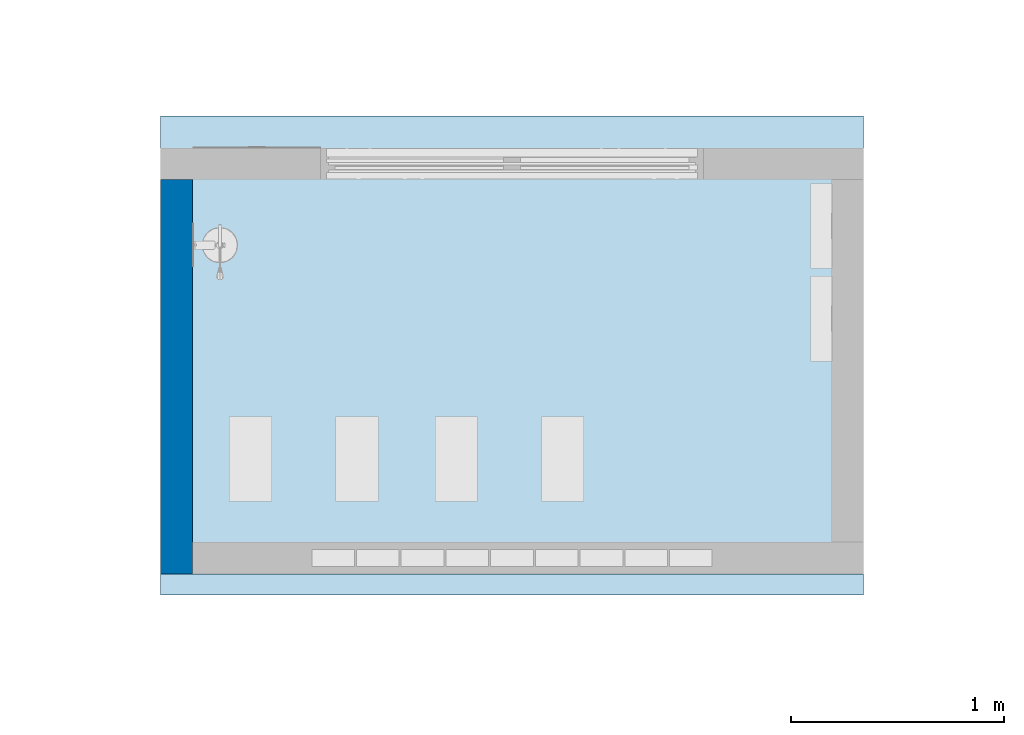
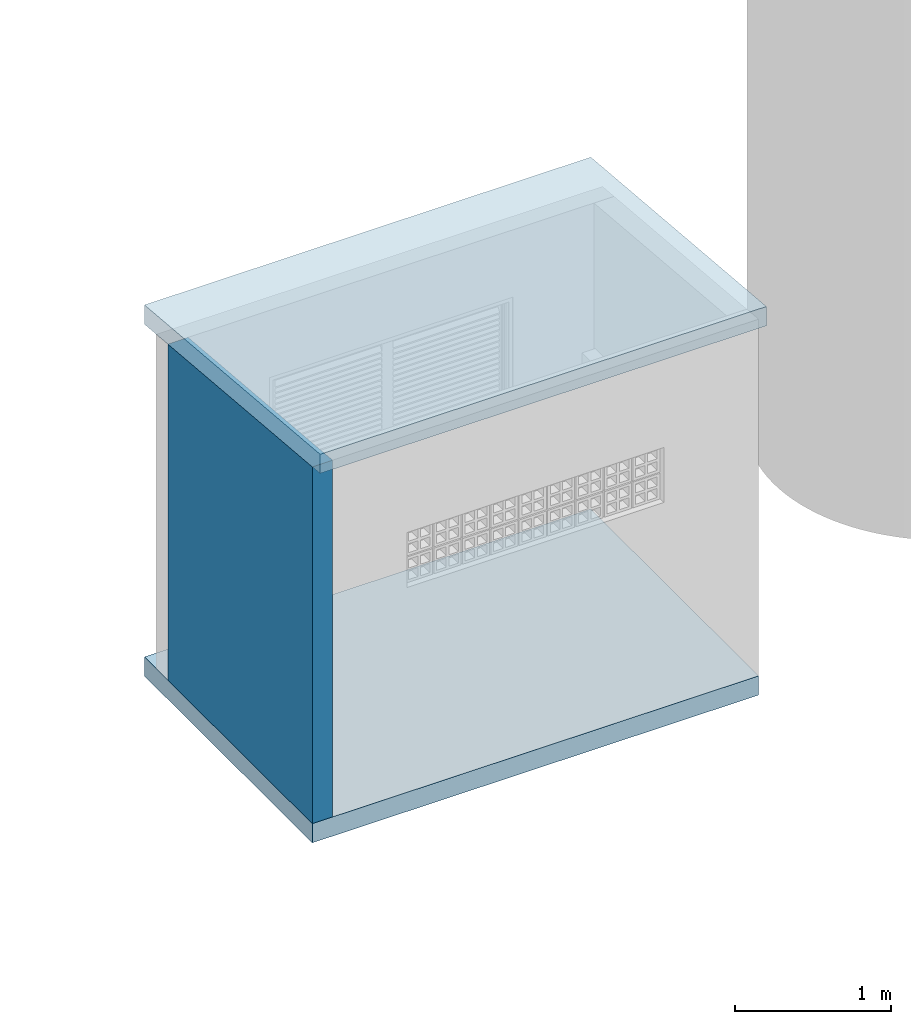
# One storey, part 1 of 119: 2 slabs, 1 wall, 1 element without a shape of its own.
"""IFC2X3 building model written with IfcOpenShell, lengths in metres."""

from ifc_helpers import new_model, entity, si_unit, converted_unit, derived_unit, direction, frame, frame_2d, origin, origin_2d_with_axis, place, context, subcontext, project, spatial, polyline, rectangle, extrude, clip, bounded_halfspace, material, layer, layer_set, layer_usage, type_object, element, aggregate, save


model = new_model("IFC2X3")

# Units and contexts
model_context = context("Model", 3, precision=1e-05, world=origin(), true_north=direction((6.12303176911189e-17, 1.0)))
body_context = subcontext(model_context, "Body", "Model", "MODEL_VIEW")
ifc_project = project(units=[si_unit("LENGTHUNIT", "METRE"), si_unit("AREAUNIT", "SQUARE_METRE"), si_unit("VOLUMEUNIT", "CUBIC_METRE"), converted_unit("PLANEANGLEUNIT", "DEGREE", entity("IfcRatioMeasure", 0.0174532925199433), si_unit("PLANEANGLEUNIT", "RADIAN"), dimensions=[0, 0, 0, 0, 0, 0, 0]), si_unit("MASSUNIT", "GRAM", prefix="KILO"), derived_unit("MASSDENSITYUNIT", [(si_unit("MASSUNIT", "GRAM", prefix="KILO"), 1), (si_unit("LENGTHUNIT", "METRE"), -3)]), derived_unit("MOMENTOFINERTIAUNIT", [(si_unit("LENGTHUNIT", "METRE"), 4)]), si_unit("TIMEUNIT", "SECOND"), si_unit("FREQUENCYUNIT", "HERTZ"), si_unit("THERMODYNAMICTEMPERATUREUNIT", "DEGREE_CELSIUS"), derived_unit("THERMALTRANSMITTANCEUNIT", [(si_unit("MASSUNIT", "GRAM", prefix="KILO"), 1), (si_unit("THERMODYNAMICTEMPERATUREUNIT", "KELVIN"), -1), (si_unit("TIMEUNIT", "SECOND"), -3)]), derived_unit("VOLUMETRICFLOWRATEUNIT", [(si_unit("LENGTHUNIT", "METRE"), 3), (si_unit("TIMEUNIT", "SECOND"), -1)]), si_unit("ELECTRICCURRENTUNIT", "AMPERE"), si_unit("ELECTRICVOLTAGEUNIT", "VOLT"), si_unit("POWERUNIT", "WATT"), si_unit("FORCEUNIT", "NEWTON", prefix="KILO"), si_unit("ILLUMINANCEUNIT", "LUX"), si_unit("LUMINOUSFLUXUNIT", "LUMEN"), si_unit("LUMINOUSINTENSITYUNIT", "CANDELA"), derived_unit("USERDEFINED", [(si_unit("MASSUNIT", "GRAM", prefix="KILO"), -1), (si_unit("LENGTHUNIT", "METRE"), -2), (si_unit("TIMEUNIT", "SECOND"), 3), (si_unit("LUMINOUSFLUXUNIT", "LUMEN"), 1)]), derived_unit("LINEARVELOCITYUNIT", [(si_unit("LENGTHUNIT", "METRE"), 1), (si_unit("TIMEUNIT", "SECOND"), -1)]), si_unit("PRESSUREUNIT", "PASCAL"), derived_unit("USERDEFINED", [(si_unit("LENGTHUNIT", "METRE"), -2), (si_unit("MASSUNIT", "GRAM", prefix="KILO"), 1), (si_unit("TIMEUNIT", "SECOND"), -2)]), derived_unit("LINEARFORCEUNIT", [(si_unit("MASSUNIT", "GRAM", prefix="KILO"), 1), (si_unit("LENGTHUNIT", "METRE"), 1), (si_unit("TIMEUNIT", "SECOND"), -2), (si_unit("LENGTHUNIT", "METRE"), -1)]), derived_unit("PLANARFORCEUNIT", [(si_unit("MASSUNIT", "GRAM", prefix="KILO"), 1), (si_unit("LENGTHUNIT", "METRE"), 1), (si_unit("TIMEUNIT", "SECOND"), -2), (si_unit("LENGTHUNIT", "METRE"), -2)])], contexts=[model_context])

# Site, building, storey
site_placement = place(None, origin())
site = spatial("IfcSite", under=ifc_project, at=site_placement, Name="Default", CompositionType="ELEMENT")
building_placement = place(site_placement, origin())
building = spatial("IfcBuilding", under=site, at=building_placement, CompositionType="ELEMENT")
storey_placement = place(building_placement, origin())
storey = spatial("IfcBuildingStorey", under=building, at=storey_placement, Name="PAV. 01 - TÉRREO", CompositionType="ELEMENT", Elevation=0.0)

# Slab
ifc_material_1 = material(Name="Concreto, Moldado in loco")
ifc_layer_1 = layer(ifc_material_1, 0.15)
ifc_layer_set_1 = layer_set([ifc_layer_1], Name="Piso:Genérico 150 mm")
ifc_layer_usage_1 = layer_usage(ifc_layer_set_1, "AXIS3", "POSITIVE", 0.0)
slab_type_1 = type_object("IfcSlabType", Name="Piso:Genérico 150 mm", PredefinedType="FLOOR", material=ifc_layer_set_1)
slab_1_placement = place(storey_placement, origin())
element("IfcSlab", 1, at=slab_1_placement, inside=storey, type_object=slab_type_1, material=ifc_layer_usage_1, Name="Piso:Genérico 150 mm", ObjectType="Piso:Genérico 150 mm", PredefinedType="FLOOR", context=body_context, shape_type="SweptSolid", body=[
    extrude(rectangle(XDim=2.15, YDim=3.29999999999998, at=origin_2d_with_axis()), frame((89.098788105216, 32.9120741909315, 0.0), z_axis=(0.0, 0.0, -1.0), x_axis=(0.0, 1.0, 0.0)), (0.0, 0.0, 1.0), 0.15),
])

# Roof, slab
roof_placement = place(storey_placement, frame((87.448788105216, 31.7370741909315, 2.6)))
roof = element("IfcRoof", 2, at=roof_placement, inside=storey, Name="Telhado básico:Genérico - 150 mm", ObjectType="Telhado básico:Genérico - 150 mm", ShapeType="NOTDEFINED")
slab_type_2 = type_object("IfcSlabType", Name="Telhado básico:Genérico - 150 mm", PredefinedType="ROOF")
slab_2_placement = place(roof_placement, origin())
slab_2 = element("IfcSlab", 3, at=slab_2_placement, type_object=slab_type_2, Name="Telhado básico:Genérico - 150 mm", ObjectType="Telhado básico:Genérico - 150 mm", PredefinedType="NOTDEFINED", context=body_context, shape_type="SweptSolid", body=[
    extrude(rectangle(XDim=2.25859463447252, YDim=3.29999999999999, at=frame_2d((8.65973959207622e-15, 0.0), x_axis=(0.0, 1.0))), frame((1.64999999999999, 1.125, 0.0984247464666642), z_axis=(0.0, 0.0871557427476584, 0.996194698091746), x_axis=(1.0, 0.0, 0.0)), (0.0, -0.0871557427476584, 0.996194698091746), 0.150572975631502),
])
aggregate(roof, [slab_2])

# Wall
ifc_material_2 = material(Name="Alvenaria - Reboco")
ifc_layer_2 = layer(ifc_material_2, 0.025)
ifc_material_3 = material(Name="Alvenaria - Tijolo 8 furos")
ifc_layer_3 = layer(ifc_material_3, 0.1)
ifc_layer_4 = layer(ifc_material_2, 0.025)
ifc_layer_set_2 = layer_set([ifc_layer_2, ifc_layer_3, ifc_layer_4], Name="Parede básica:Parede 15 - Externa")
ifc_layer_usage_2 = layer_usage(ifc_layer_set_2, "AXIS2", "NEGATIVE", 0.075)
wall_type = type_object("IfcWallType", Name="Parede básica:Parede 15 - Externa", PredefinedType="STANDARD", material=ifc_layer_set_2)
wall_placement = place(storey_placement, frame((87.523788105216, 33.6870741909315, 0.0), z_axis=(0.0, 0.0, 1.0), x_axis=(0.0, -1.0, 0.0)))
element("IfcWallStandardCase", 4, at=wall_placement, inside=storey, type_object=wall_type, material=ifc_layer_usage_2, Name="Parede básica:Parede 15 - Externa", ObjectType="Parede básica:Parede 15 - Externa", context=body_context, shape_type="Clipping", body=[
    clip(extrude(rectangle(XDim=1.84999999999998, YDim=0.150000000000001, at=frame_2d((0.924999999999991, 4.14945855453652e-15), x_axis=(-1.0, 0.0))), origin(), (0.0, 0.0, 1.0), 2.78810062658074), bounded_halfspace(frame((0.0, -0.0749999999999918, 2.62624659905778), z_axis=(-0.0871557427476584, 0.0, 0.996194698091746), x_axis=(0.0, -1.0, 0.0)), False, frame((0.0, -0.0749999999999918, 2.62624659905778)), polyline([(0.0, 0.0), (1.84999999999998, 0.0), (1.84999999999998, 0.150000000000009), (1.69999999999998, 0.149999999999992), (0.0, 0.150000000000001), (0.0, 0.0)]))),
])

save(model, "model.ifc")
